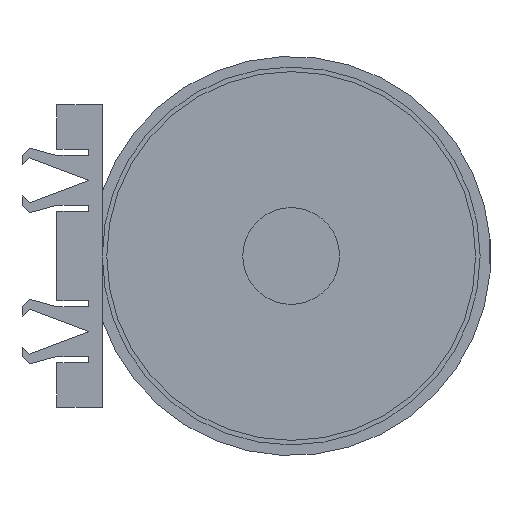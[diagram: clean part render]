
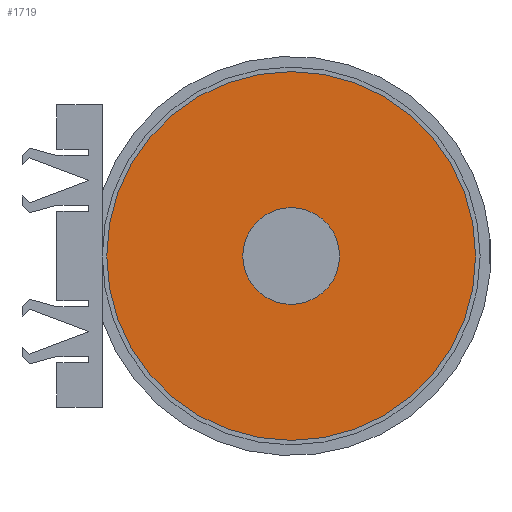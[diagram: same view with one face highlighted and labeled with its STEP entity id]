
A CAD part, left-side view. The second image highlights one B-rep face of the part: STEP entity #1719.
In plain terms, the highlighted planar face has unit normal (-1, 0, 0) as drawn and (0, 0, -1) by its records, which use the part's own axes.
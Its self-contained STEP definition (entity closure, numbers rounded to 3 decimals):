
#35=FACE_BOUND('',#254,.T.);
#49=PLANE('',#1868);
#146=FACE_OUTER_BOUND('',#253,.T.);
#253=EDGE_LOOP('',(#1265,#1266));
#254=EDGE_LOOP('',(#1267,#1268));
#770=CIRCLE('',#1841,3.2);
#771=CIRCLE('',#1842,3.2);
#786=CIRCLE('',#1866,12.2);
#787=CIRCLE('',#1867,12.2);
#805=VERTEX_POINT('',#2477);
#806=VERTEX_POINT('',#2479);
#821=VERTEX_POINT('',#2522);
#822=VERTEX_POINT('',#2524);
#973=EDGE_CURVE('',#806,#805,#770,.T.);
#974=EDGE_CURVE('',#805,#806,#771,.T.);
#993=EDGE_CURVE('',#822,#821,#786,.T.);
#994=EDGE_CURVE('',#821,#822,#787,.T.);
#1265=ORIENTED_EDGE('',*,*,#993,.T.);
#1266=ORIENTED_EDGE('',*,*,#994,.T.);
#1267=ORIENTED_EDGE('',*,*,#973,.T.);
#1268=ORIENTED_EDGE('',*,*,#974,.T.);
#1719=ADVANCED_FACE('',(#146,#35),#49,.T.);
#1841=AXIS2_PLACEMENT_3D('',#2480,#1997,#1998);
#1842=AXIS2_PLACEMENT_3D('',#2481,#1999,#2000);
#1866=AXIS2_PLACEMENT_3D('',#2525,#2051,#2052);
#1867=AXIS2_PLACEMENT_3D('',#2526,#2053,#2054);
#1868=AXIS2_PLACEMENT_3D('',#2527,#2055,#2056);
#1997=DIRECTION('center_axis',(0.,0.,1.));
#1998=DIRECTION('ref_axis',(0.,1.,0.));
#1999=DIRECTION('center_axis',(0.,0.,1.));
#2000=DIRECTION('ref_axis',(0.,1.,0.));
#2051=DIRECTION('center_axis',(0.,0.,-1.));
#2052=DIRECTION('ref_axis',(1.,0.,0.));
#2053=DIRECTION('center_axis',(0.,0.,-1.));
#2054=DIRECTION('ref_axis',(1.,0.,0.));
#2055=DIRECTION('center_axis',(0.,0.,-1.));
#2056=DIRECTION('ref_axis',(-1.,0.,0.));
#2477=CARTESIAN_POINT('',(0.,-3.2,0.));
#2479=CARTESIAN_POINT('',(0.,3.2,0.));
#2480=CARTESIAN_POINT('Origin',(0.,0.,0.));
#2481=CARTESIAN_POINT('Origin',(0.,0.,0.));
#2522=CARTESIAN_POINT('',(-12.2,0.,0.));
#2524=CARTESIAN_POINT('',(12.2,0.,0.));
#2525=CARTESIAN_POINT('Origin',(0.,0.,0.));
#2526=CARTESIAN_POINT('Origin',(0.,0.,0.));
#2527=CARTESIAN_POINT('Origin',(0.,0.,0.));
